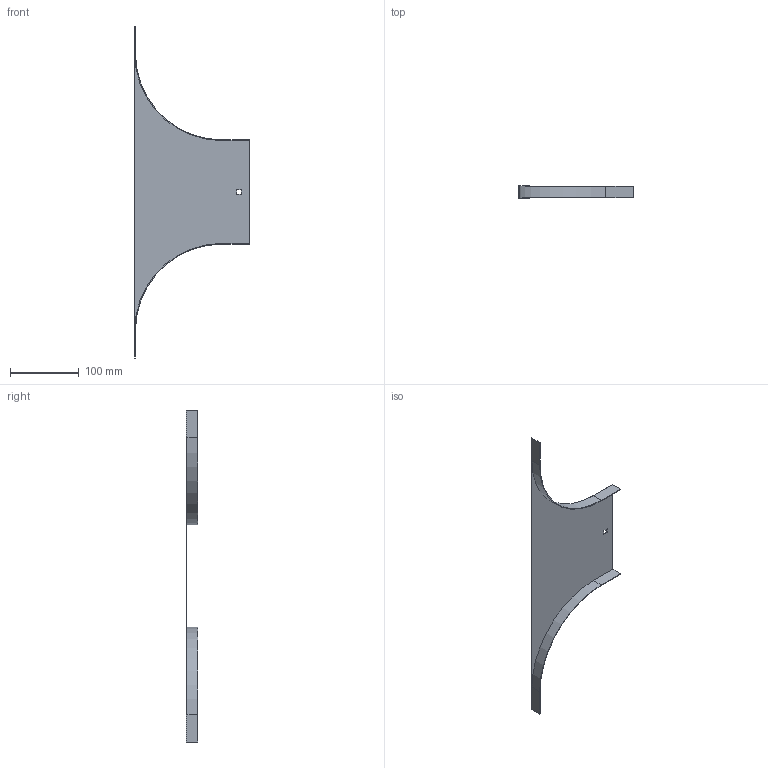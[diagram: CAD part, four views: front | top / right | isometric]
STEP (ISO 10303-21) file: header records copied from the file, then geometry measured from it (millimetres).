
FILE_DESCRIPTION (( 'STEP AP214' ), '1' );
FILE_NAME ('ORL_150.step', '2025-07-16T09:15:43', ( '' ), ( '' ), 'SwSTEP 2.0', 'SolidWorks 2023', '' );
FILE_SCHEMA (( 'AUTOMOTIVE_DESIGN' ));
Length unit declared in the file: millimetre
Products named in the file (1): ORL_150
Bounding box: 167 x 17 x 484 mm (x, y, z)
Volume: 41406.6 mm3; surface area: 84097.1 mm2
Topology: 1 solids, 1 shells, 22 faces, 60 edges, 40 vertices
Faces by surface type: plane 18, cylinder 4
Entity records: 719 total; most frequent: CARTESIAN_POINT 123, ORIENTED_EDGE 120, DIRECTION 114, EDGE_CURVE 60, LINE 52, VECTOR 52, VERTEX_POINT 40, AXIS2_PLACEMENT_3D 31
